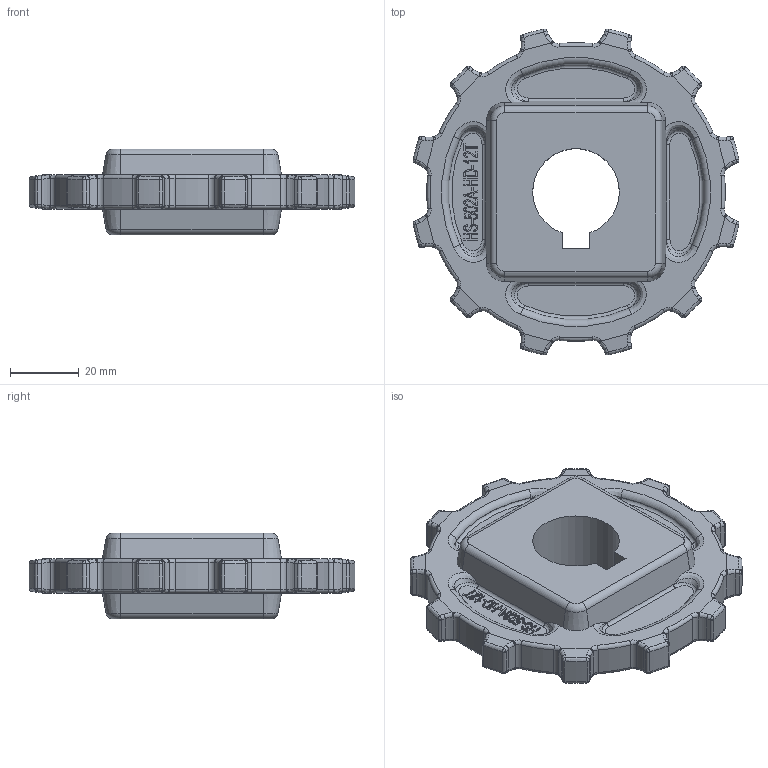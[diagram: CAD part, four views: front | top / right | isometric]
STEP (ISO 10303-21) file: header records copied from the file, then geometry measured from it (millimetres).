
FILE_DESCRIPTION(/* description */ (''),/* implementation_level */ '2;1');
FILE_NAME(/* name */ 'HS-502A-HD-12T.stp',/* time_stamp */ '2024-03-13T19:28:43+08:00',/* author */ (''),/* organization */ (''),/* preprocessor_version */ 'ST-DEVELOPER v15',/* originating_system */ 'SIEMENS PLM Software NX 8.5',/* authorisation */ '');
FILE_SCHEMA (('AP203_CONFIGURATION_CONTROLLED_3D_DESIGN_OF_MECHANICAL_PARTS_AND_ASSEMBLIES_MIM_LF { 1 0 10303 403 2 1 2}'));
Length unit declared in the file: millimetre
Products named in the file (1): Admi2510E320607y
Bounding box: 94.92 x 94.92 x 25 mm (x, y, z)
Volume: 82241.2 mm3; surface area: 20525.8 mm2
Topology: 1 solids, 1 shells, 711 faces, 1782 edges, 1044 vertices
Faces by surface type: bspline 208, plane 167, cylinder 157, torus 140, extrusion 23, cone 16
Entity records: 27156 total; most frequent: CARTESIAN_POINT 11720, ORIENTED_EDGE 3468, DIRECTION 2928, EDGE_CURVE 1734, AXIS2_PLACEMENT_3D 1207, VERTEX_POINT 1044, EDGE_LOOP 732, ADVANCED_FACE 711
